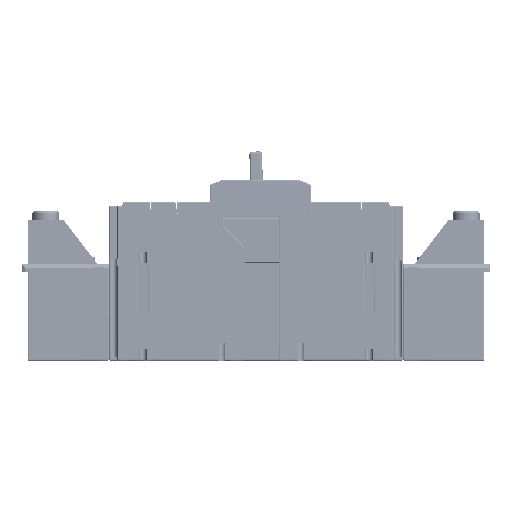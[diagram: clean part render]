
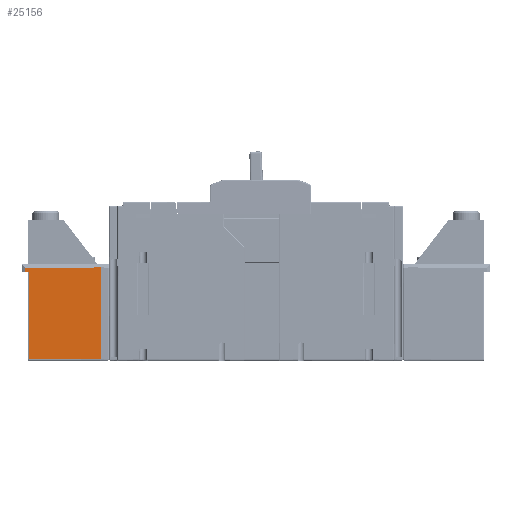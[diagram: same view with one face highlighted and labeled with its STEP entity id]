
A CAD part, left-side view. The second image highlights one B-rep face of the part: STEP entity #25156.
In plain terms, the highlighted planar face has unit normal (-1, 0.004, 0).
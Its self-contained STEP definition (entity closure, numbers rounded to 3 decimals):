
#404 = VERTEX_POINT ( 'NONE', #124395 ) ;
#1010 = VERTEX_POINT ( 'NONE', #127566 ) ;
#9560 = EDGE_CURVE ( 'NONE', #54744, #144934, #244411, .T. ) ;
#15167 = EDGE_CURVE ( 'NONE', #366393, #51403, #133413, .T. ) ;
#17453 = EDGE_CURVE ( 'NONE', #366393, #54744, #206463, .T. ) ;
#17753 = EDGE_CURVE ( 'NONE', #404, #1010, #131716, .T. ) ;
#18011 = EDGE_CURVE ( 'NONE', #404, #51403, #109199, .T. ) ;
#18183 = EDGE_CURVE ( 'NONE', #144934, #1010, #203409, .T. ) ;
#25156 = ADVANCED_FACE ( 'NONE', ( #303867 ), #303791, .T. ) ;
#51403 = VERTEX_POINT ( 'NONE', #356306 ) ;
#54744 = VERTEX_POINT ( 'NONE', #308023 ) ;
#100497 = VECTOR ( 'NONE', #133445, 1000. ) ;
#109177 = CARTESIAN_POINT ( 'NONE',  ( -74.309, 97.988, 11.766 ) ) ;
#109199 = LINE ( 'NONE', #109177, #311080 ) ;
#109208 = DIRECTION ( 'NONE',  ( 0., 0., -1. ) ) ;
#124395 = CARTESIAN_POINT ( 'NONE',  ( -74.309, 97.988, 7.966 ) ) ;
#127566 = CARTESIAN_POINT ( 'NONE',  ( -74.304, 99.456, 7.966 ) ) ;
#131716 = LINE ( 'NONE', #131936, #235624 ) ;
#131936 = CARTESIAN_POINT ( 'NONE',  ( -74.309, 97.988, 7.966 ) ) ;
#131940 = DIRECTION ( 'NONE',  ( 0.003, 1., 0. ) ) ;
#133413 = LINE ( 'NONE', #133435, #100497 ) ;
#133435 = CARTESIAN_POINT ( 'NONE',  ( -74.421, 65.986, -30.634 ) ) ;
#133445 = DIRECTION ( 'NONE',  ( 0.003, 1., 0. ) ) ;
#144934 = VERTEX_POINT ( 'NONE', #214193 ) ;
#152995 = EDGE_LOOP ( 'NONE', ( #330851, #330868, #330874, #330876, #330881, #330885 ) ) ;
#185924 = VECTOR ( 'NONE', #206501, 1000. ) ;
#203409 = LINE ( 'NONE', #203496, #312389 ) ;
#203496 = CARTESIAN_POINT ( 'NONE',  ( -74.304, 99.456, 11.766 ) ) ;
#203499 = DIRECTION ( 'NONE',  ( 0., 0., -1. ) ) ;
#204664 = AXIS2_PLACEMENT_3D ( 'NONE', #303921, #303926, #303928 ) ;
#206360 = CARTESIAN_POINT ( 'NONE',  ( -74.421, 65.986, 11.766 ) ) ;
#206463 = LINE ( 'NONE', #206360, #185924 ) ;
#206501 = DIRECTION ( 'NONE',  ( 0., 0., 1. ) ) ;
#214193 = CARTESIAN_POINT ( 'NONE',  ( -74.304, 99.456, 10.003 ) ) ;
#215478 = CARTESIAN_POINT ( 'NONE',  ( -74.421, 65.986, -30.634 ) ) ;
#235624 = VECTOR ( 'NONE', #131940, 1000. ) ;
#244408 = CARTESIAN_POINT ( 'NONE',  ( -74.421, 65.986, 10.034 ) ) ;
#244411 = LINE ( 'NONE', #244408, #373556 ) ;
#244429 = DIRECTION ( 'NONE',  ( 0.003, 1., -0.001 ) ) ;
#303791 = PLANE ( 'NONE',  #204664 ) ;
#303867 = FACE_OUTER_BOUND ( 'NONE', #152995, .T. ) ;
#303921 = CARTESIAN_POINT ( 'NONE',  ( -74.421, 65.986, 11.766 ) ) ;
#303926 = DIRECTION ( 'NONE',  ( -1., 0.003, 0. ) ) ;
#303928 = DIRECTION ( 'NONE',  ( -0.003, -1., 0. ) ) ;
#308023 = CARTESIAN_POINT ( 'NONE',  ( -74.421, 65.986, 10.034 ) ) ;
#311080 = VECTOR ( 'NONE', #109208, 1000. ) ;
#312389 = VECTOR ( 'NONE', #203499, 1000. ) ;
#330851 = ORIENTED_EDGE ( 'NONE', *, *, #9560, .T. ) ;
#330868 = ORIENTED_EDGE ( 'NONE', *, *, #18183, .T. ) ;
#330874 = ORIENTED_EDGE ( 'NONE', *, *, #17753, .F. ) ;
#330876 = ORIENTED_EDGE ( 'NONE', *, *, #18011, .T. ) ;
#330881 = ORIENTED_EDGE ( 'NONE', *, *, #15167, .F. ) ;
#330885 = ORIENTED_EDGE ( 'NONE', *, *, #17453, .T. ) ;
#356306 = CARTESIAN_POINT ( 'NONE',  ( -74.309, 97.988, -30.634 ) ) ;
#366393 = VERTEX_POINT ( 'NONE', #215478 ) ;
#373556 = VECTOR ( 'NONE', #244429, 1000. ) ;
